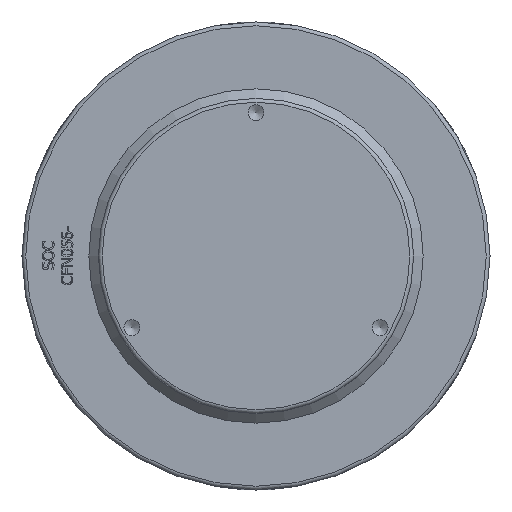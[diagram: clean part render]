
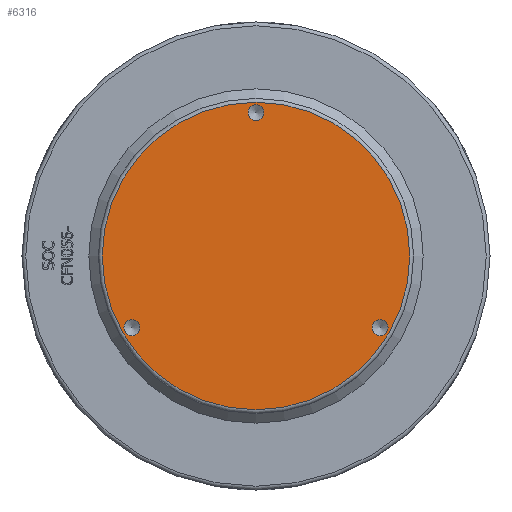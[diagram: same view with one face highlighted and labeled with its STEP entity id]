
A CAD part, front view. The second image highlights one B-rep face of the part: STEP entity #6316.
In plain terms, the highlighted planar face has unit normal (0, -1, 0) as drawn and (0, 1, 0) by its records, which use the part's own axes.
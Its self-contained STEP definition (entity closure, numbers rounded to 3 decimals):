
#90=PLANE('',#6633);
#1787=FACE_BOUND('',#2393,.T.);
#1788=FACE_BOUND('',#2394,.T.);
#1789=FACE_BOUND('',#2395,.T.);
#2013=FACE_OUTER_BOUND('',#2392,.T.);
#2392=EDGE_LOOP('',(#5155));
#2393=EDGE_LOOP('',(#5156));
#2394=EDGE_LOOP('',(#5157));
#2395=EDGE_LOOP('',(#5158));
#2623=CIRCLE('',#6561,4.188);
#2625=CIRCLE('',#6565,4.188);
#2627=CIRCLE('',#6569,4.188);
#2629=CIRCLE('',#6631,80.5);
#2649=VERTEX_POINT('',#7590);
#2651=VERTEX_POINT('',#7596);
#2653=VERTEX_POINT('',#7602);
#2959=VERTEX_POINT('',#9910);
#3293=EDGE_CURVE('',#2649,#2649,#2623,.T.);
#3295=EDGE_CURVE('',#2651,#2651,#2625,.T.);
#3297=EDGE_CURVE('',#2653,#2653,#2627,.T.);
#3755=EDGE_CURVE('',#2959,#2959,#2629,.T.);
#5155=ORIENTED_EDGE('',*,*,#3755,.F.);
#5156=ORIENTED_EDGE('',*,*,#3293,.T.);
#5157=ORIENTED_EDGE('',*,*,#3295,.T.);
#5158=ORIENTED_EDGE('',*,*,#3297,.T.);
#6316=ADVANCED_FACE('',(#2013,#1787,#1788,#1789),#90,.T.);
#6561=AXIS2_PLACEMENT_3D('',#7591,#6747,#6748);
#6565=AXIS2_PLACEMENT_3D('',#7597,#6755,#6756);
#6569=AXIS2_PLACEMENT_3D('',#7603,#6763,#6764);
#6631=AXIS2_PLACEMENT_3D('',#9911,#7131,#7132);
#6633=AXIS2_PLACEMENT_3D('',#9914,#7135,#7136);
#6747=DIRECTION('center_axis',(0.,-1.,0.));
#6748=DIRECTION('ref_axis',(-0.5,0.,-0.866));
#6755=DIRECTION('center_axis',(0.,-1.,0.));
#6756=DIRECTION('ref_axis',(-0.5,0.,0.866));
#6763=DIRECTION('center_axis',(0.,-1.,0.));
#6764=DIRECTION('ref_axis',(1.,0.,0.));
#7131=DIRECTION('center_axis',(0.,-1.,0.));
#7132=DIRECTION('ref_axis',(-1.,0.,0.));
#7135=DIRECTION('center_axis',(0.,1.,0.));
#7136=DIRECTION('ref_axis',(0.,0.,1.));
#7590=CARTESIAN_POINT('',(62.858,147.,-41.127));
#7591=CARTESIAN_POINT('Origin',(64.952,147.,-37.5));
#7596=CARTESIAN_POINT('',(-67.046,147.,-33.873));
#7597=CARTESIAN_POINT('Origin',(-64.952,147.,-37.5));
#7602=CARTESIAN_POINT('',(4.188,147.,75.));
#7603=CARTESIAN_POINT('Origin',(0.,147.,75.));
#9910=CARTESIAN_POINT('',(80.5,147.,0.));
#9911=CARTESIAN_POINT('Origin',(0.,147.,0.));
#9914=CARTESIAN_POINT('Origin',(82.5,147.,0.));
